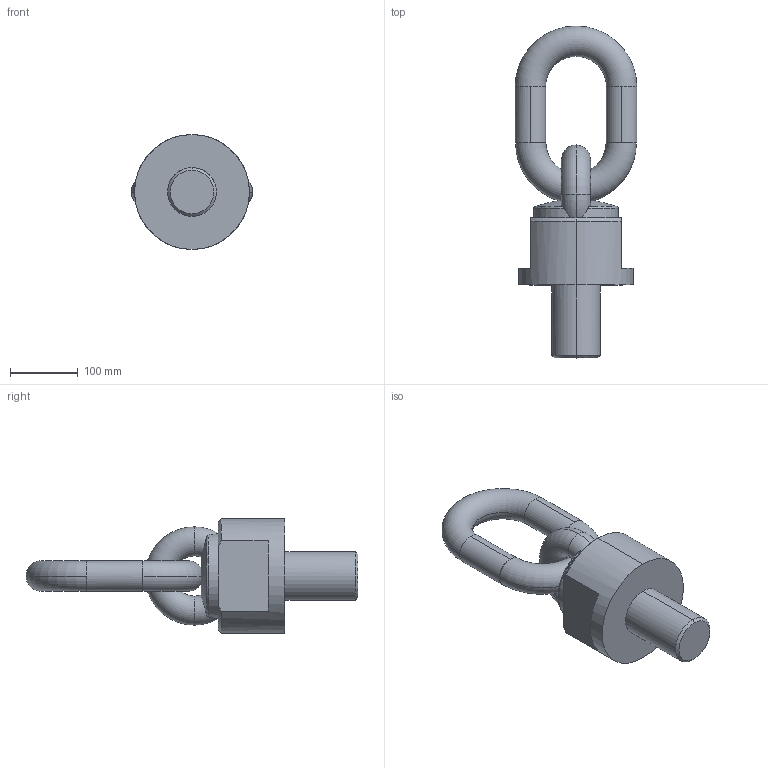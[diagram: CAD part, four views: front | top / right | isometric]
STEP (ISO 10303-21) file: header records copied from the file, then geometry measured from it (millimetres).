
FILE_DESCRIPTION(('CATIA V5 STEP Exchange'),'2;1');
FILE_NAME('C:\Users\Utente\Desktop\3D files 800\C80025072108.stp','2020-04-12T14:06:11+00:00',('none'),('none'),'CATIA Version 5 Release 20 GA (IN-10)','CATIA V5 STEP AP203','none');
FILE_SCHEMA(('CONFIG_CONTROL_DESIGN'));
Length unit declared in the file: millimetre
Products named in the file (1): _C80025072108
Bounding box: 180 x 491 x 170 mm (x, y, z)
Volume: 3971848.9 mm3; surface area: 230574.4 mm2
Topology: 1 solids, 1 shells, 42 faces, 136 edges, 93 vertices
Faces by surface type: torus 12, plane 12, cylinder 10, cone 8
Entity records: 2122 total; most frequent: CARTESIAN_POINT 970, ORIENTED_EDGE 272, DIRECTION 167, EDGE_CURVE 136, AXIS2_PLACEMENT_3D 108, VERTEX_POINT 93, CIRCLE 67, B_SPLINE_CURVE_WITH_KNOTS 49
